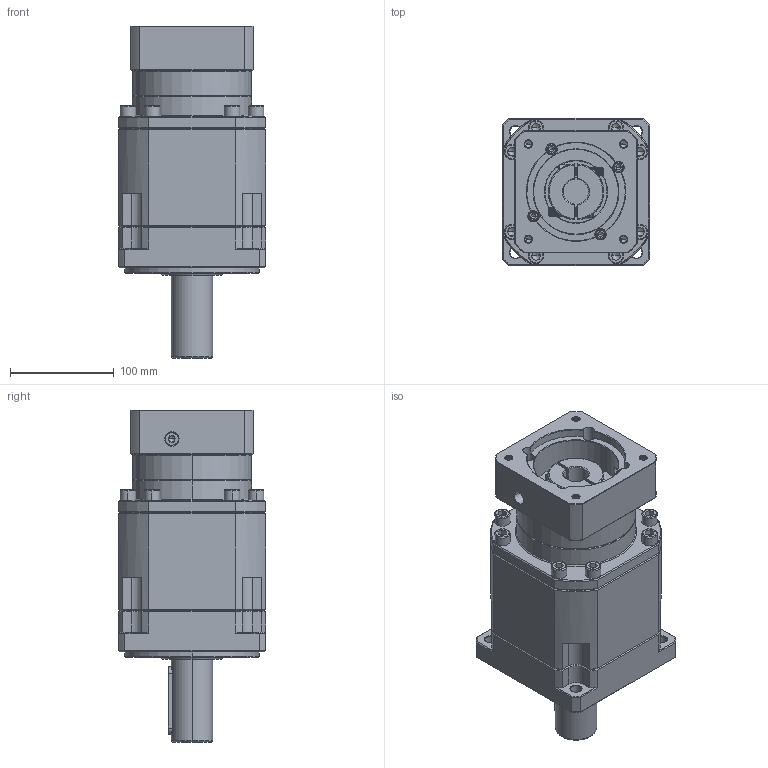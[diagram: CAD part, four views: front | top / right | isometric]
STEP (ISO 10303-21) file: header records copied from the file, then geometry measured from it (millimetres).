
FILE_DESCRIPTION (( 'STEP AP214' ), '1' );
FILE_NAME ('ZB142A-D40-L3-P2-24-95-130-M8.step', '2023-09-02T02:52:42', ( '' ), ( '' ), 'SwSTEP 2.0', 'SolidWorks 2016', '' );
FILE_SCHEMA (( 'AUTOMOTIVE_DESIGN' ));
Length unit declared in the file: millimetre
Products named in the file (1): ZB142A-D40-L3-P2-24-95-130-M8
Bounding box: 142 x 142 x 320.7 mm (x, y, z)
Volume: 3708498 mm3; surface area: 259072.5 mm2
Topology: 6 solids, 6 shells, 2549 faces, 6672 edges, 4245 vertices
Faces by surface type: plane 1205, cylinder 493, bspline 405, cone 388, torus 58
Entity records: 135947 total; most frequent: CARTESIAN_POINT 48522, ORIENTED_EDGE 13236, DIRECTION 10839, EDGE_CURVE 6618, VERTEX_POINT 4245, LINE 4213, VECTOR 4213, AXIS2_PLACEMENT_3D 3313
